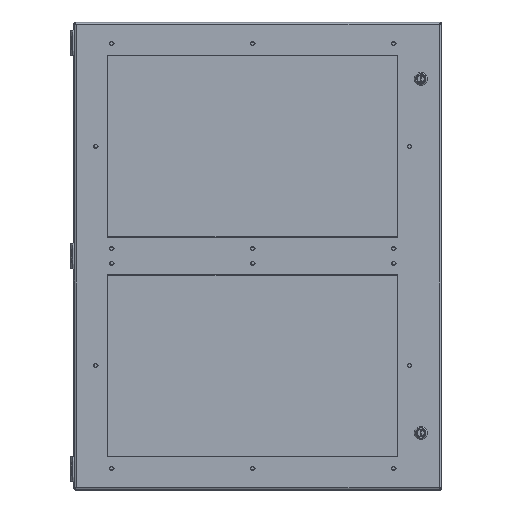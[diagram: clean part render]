
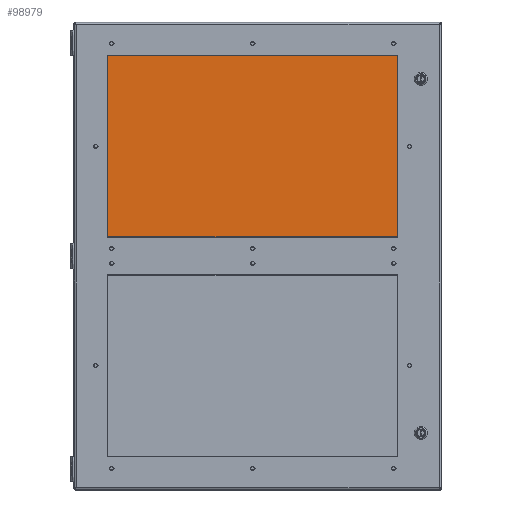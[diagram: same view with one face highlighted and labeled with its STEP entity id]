
A CAD part, top view. The second image highlights one B-rep face of the part: STEP entity #98979.
In plain terms, the highlighted planar face has unit normal (0, 0, 1) as drawn and (0, 0, -1) by its records, which use the part's own axes.
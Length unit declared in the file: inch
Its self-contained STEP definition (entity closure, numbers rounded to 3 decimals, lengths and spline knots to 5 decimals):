
#98775=DIRECTION('',(1.,0.,0.));
#98776=VECTOR('',#98775,10.84375);
#98777=CARTESIAN_POINT('',(-5.42188,-8.67188,-0.236));
#98778=LINE('',#98777,#98776);
#98782=DIRECTION('',(0.,1.,0.));
#98783=VECTOR('',#98782,17.34375);
#98784=CARTESIAN_POINT('',(5.42188,-8.67188,-0.236));
#98785=LINE('',#98784,#98783);
#98789=DIRECTION('',(-1.,0.,0.));
#98790=VECTOR('',#98789,10.84375);
#98791=CARTESIAN_POINT('',(5.42188,8.67188,-0.236));
#98792=LINE('',#98791,#98790);
#98796=DIRECTION('',(0.,-1.,0.));
#98797=VECTOR('',#98796,17.34375);
#98798=CARTESIAN_POINT('',(-5.42188,8.67188,-0.236));
#98799=LINE('',#98798,#98797);
#98840=CARTESIAN_POINT('',(-5.42188,-8.67188,-0.236));
#98841=CARTESIAN_POINT('',(5.42188,-8.67188,-0.236));
#98842=VERTEX_POINT('',#98840);
#98843=VERTEX_POINT('',#98841);
#98844=CARTESIAN_POINT('',(5.42188,8.67188,-0.236));
#98845=VERTEX_POINT('',#98844);
#98846=CARTESIAN_POINT('',(-5.42188,8.67188,-0.236));
#98847=VERTEX_POINT('',#98846);
#98965=CARTESIAN_POINT('',(0.,0.,-0.236));
#98966=DIRECTION('',(0.,0.,1.));
#98967=DIRECTION('',(1.,0.,0.));
#98968=AXIS2_PLACEMENT_3D('',#98965,#98966,#98967);
#98969=PLANE('',#98968);
#98970=ORIENTED_EDGE('',*,*,#98955,.T.);
#98972=ORIENTED_EDGE('',*,*,#98971,.T.);
#98974=ORIENTED_EDGE('',*,*,#98973,.T.);
#98976=ORIENTED_EDGE('',*,*,#98975,.T.);
#98977=EDGE_LOOP('',(#98970,#98972,#98974,#98976));
#98978=FACE_OUTER_BOUND('',#98977,.F.);
#98955=EDGE_CURVE('',#98842,#98843,#98778,.T.);
#98971=EDGE_CURVE('',#98843,#98845,#98785,.T.);
#98973=EDGE_CURVE('',#98845,#98847,#98792,.T.);
#98975=EDGE_CURVE('',#98847,#98842,#98799,.T.);
#98979=ADVANCED_FACE('',(#98978),#98969,.F.);
